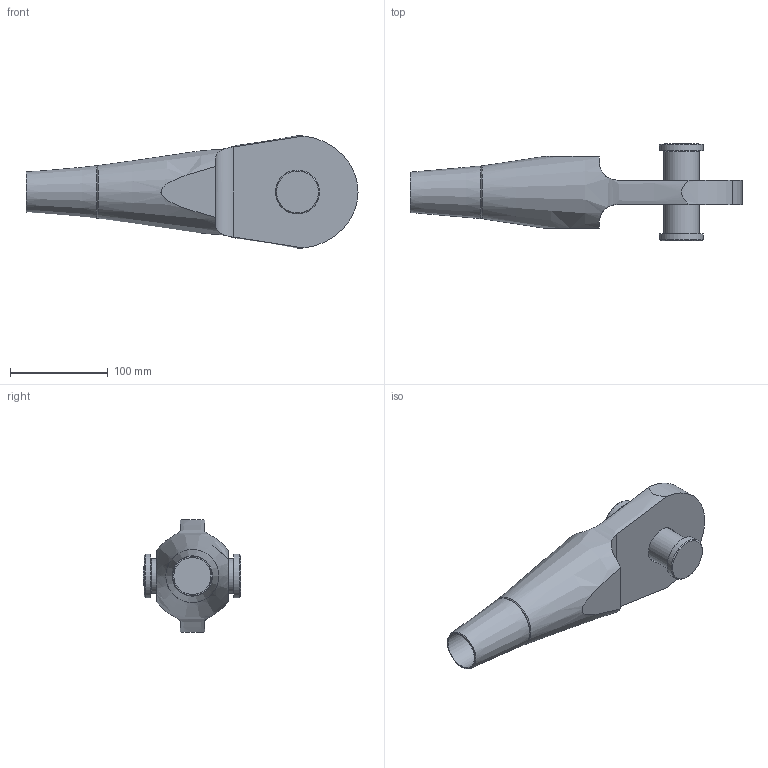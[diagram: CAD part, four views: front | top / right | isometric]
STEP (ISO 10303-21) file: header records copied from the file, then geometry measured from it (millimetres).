
FILE_DESCRIPTION(/* description */ (''),/* implementation_level */ '2;1');
FILE_NAME(/* name */ 'G:\Engineering\700 CAD\Internet-PX-1-step-igs-dxf\520-OES-Arbeitsdateien\520-036-OES.stp',/* time_stamp */ '2020-06-26T10:33:24+02:00',/* author */ ('schwarz'),/* organization */ (''),/* preprocessor_version */ 'ST-DEVELOPER v16.1',/* originating_system */ 'Autodesk Inventor 2016',/* authorisation */ '');
FILE_SCHEMA (('AUTOMOTIVE_DESIGN { 1 0 10303 214 3 1 1 }'));
Length unit declared in the file: centimetre
Products named in the file (1): 520-036-OES-KMU-Kunde
Bounding box: 340 x 99.75 x 115.27 mm (x, y, z)
Volume: 1002708.8 mm3; surface area: 103659.8 mm2
Topology: 2 solids, 3 shells, 49 faces, 108 edges, 70 vertices
Faces by surface type: plane 22, cylinder 14, cone 12, torus 1
Full cylindrical faces by diameter (mm): 8.376 x1, 10 x1, 11 x1, 19.22 x1, 36 x1, 38 x1, 39 x1, 45 x2
Entity records: 1366 total; most frequent: CARTESIAN_POINT 328, DIRECTION 198, ORIENTED_EDGE 158, AXIS2_PLACEMENT_3D 89, EDGE_CURVE 79, EDGE_LOOP 78, VERTEX_POINT 63, STYLED_ITEM 51
